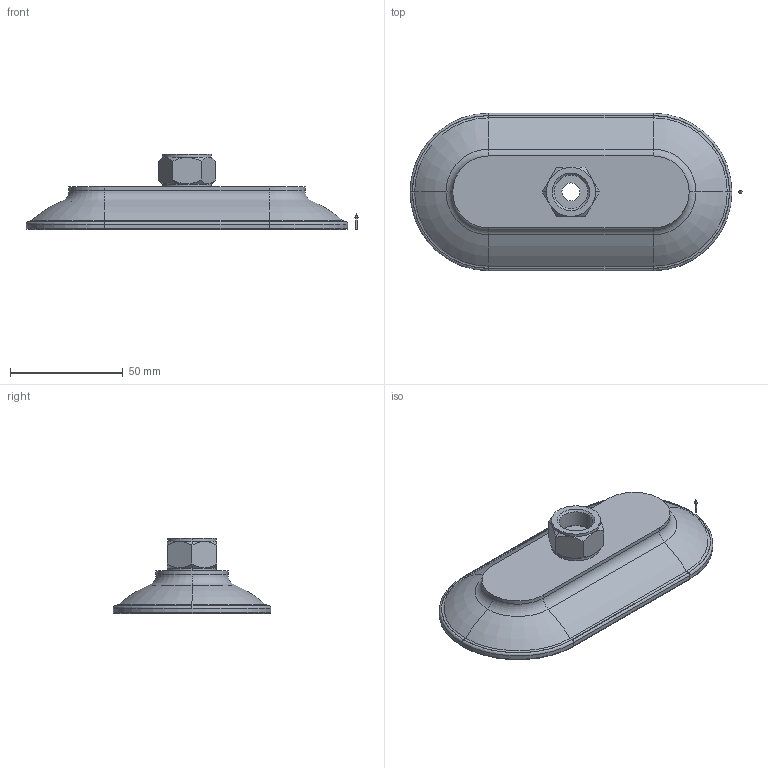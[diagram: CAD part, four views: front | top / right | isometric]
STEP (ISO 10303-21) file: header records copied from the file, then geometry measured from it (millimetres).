
FILE_DESCRIPTION(('STEP AP214'),'1');
FILE_NAME('10_01_05_00278.stp','2020-10-24T00:38:02',('TraceParts'),('TraceParts S.A.'),'Spatial InterOp 3D',' ',' ');
FILE_SCHEMA(('AUTOMOTIVE_DESIGN { 1 0 10303 214 1 1 1 1 }'));
Length unit declared in the file: millimetre
Products named in the file (1): 10_01_05_00278_1
Bounding box: 147.5 x 70 x 33.5 mm (x, y, z)
Volume: 65147.4 mm3; surface area: 23580.6 mm2
Topology: 2 solids, 2 shells, 94 faces, 206 edges, 119 vertices
Faces by surface type: cylinder 32, torus 28, plane 20, cone 14
Entity records: 3328 total; most frequent: DIRECTION 508, CARTESIAN_POINT 443, ORIENTED_EDGE 408, AXIS2_PLACEMENT_3D 220, EDGE_CURVE 204, CIRCLE 124, VERTEX_POINT 119, EDGE_LOOP 101
